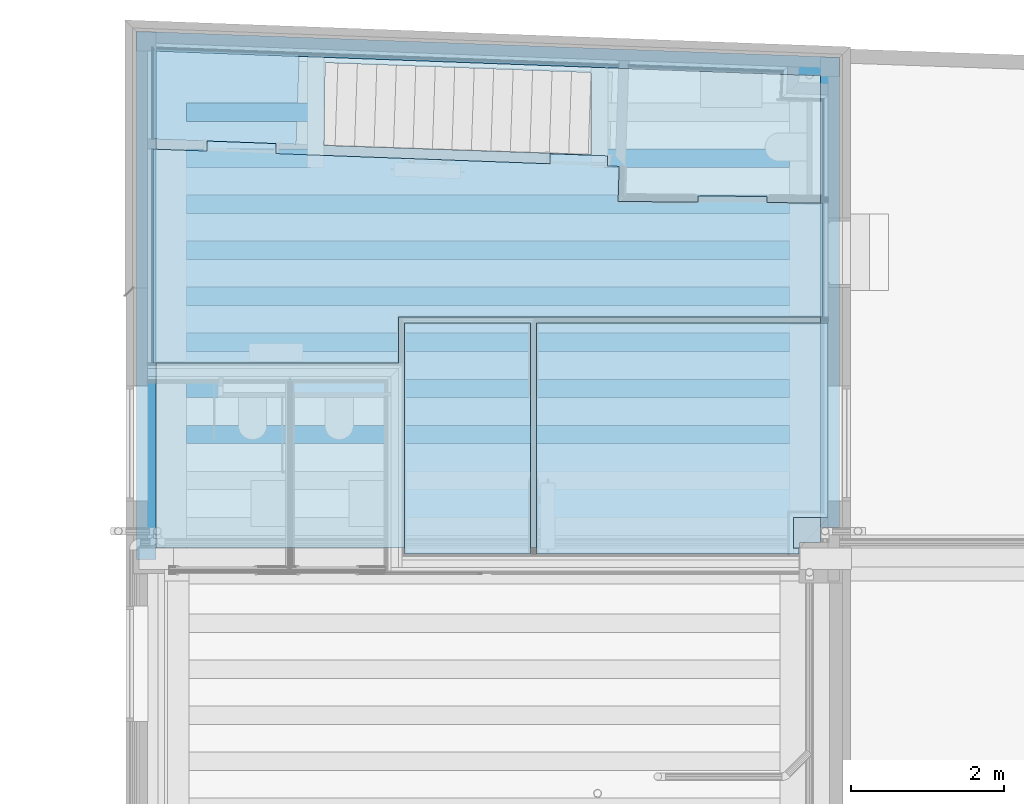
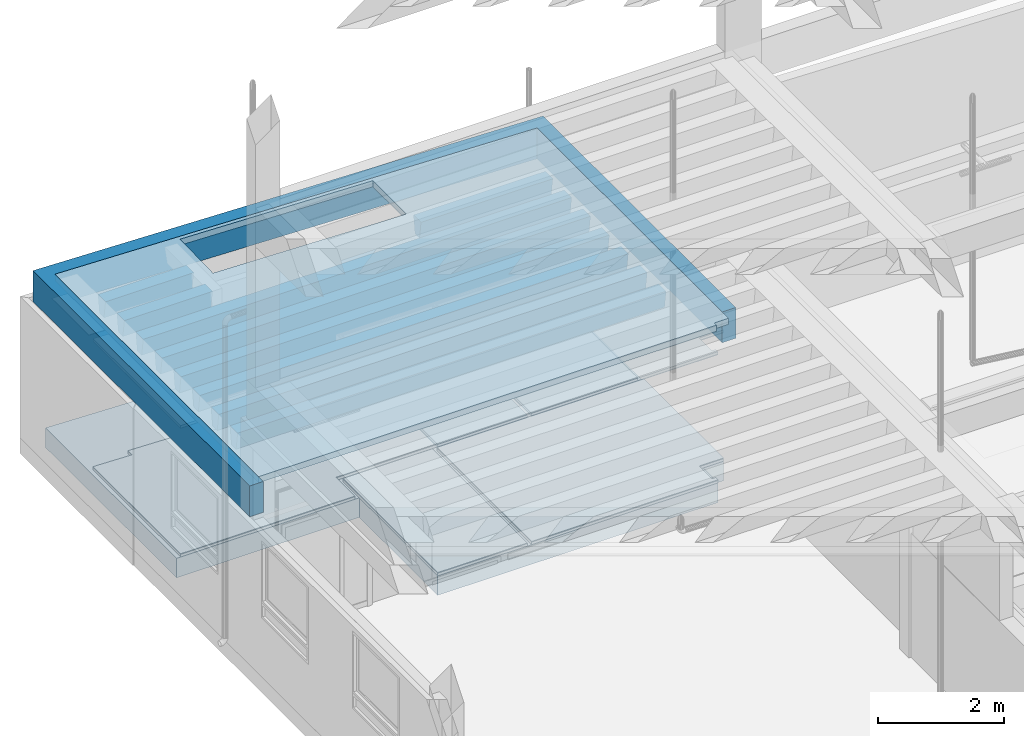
# One storey, part 20 of 106: 28 slabs.
"""IFC2X3 building model written with IfcOpenShell, lengths in metres."""

from ifc_helpers import new_model, entity, si_unit, converted_unit, derived_unit, money_unit, direction, frame, origin_with_axes, place, context, subcontext, project, spatial, faceted_brep, material, type_object, element, save


model = new_model("IFC2X3")

# Units and contexts
model_context = context("Model", 3, precision=1e-05, world=origin_with_axes(), true_north=direction((0.0, 1.0)))
body_context = subcontext(model_context, "Body", "Model", "MODEL_VIEW", scale=1.0)
ifc_project = project(units=[si_unit("LENGTHUNIT", "METRE"), si_unit("AREAUNIT", "SQUARE_METRE"), si_unit("VOLUMEUNIT", "CUBIC_METRE"), si_unit("ABSORBEDDOSEUNIT", "GRAY"), si_unit("AMOUNTOFSUBSTANCEUNIT", "MOLE"), si_unit("DOSEEQUIVALENTUNIT", "SIEVERT"), si_unit("ELECTRICCAPACITANCEUNIT", "FARAD"), si_unit("ELECTRICCHARGEUNIT", "COULOMB"), si_unit("ELECTRICCONDUCTANCEUNIT", "SIEMENS"), si_unit("ELECTRICCURRENTUNIT", "AMPERE"), si_unit("ELECTRICRESISTANCEUNIT", "OHM"), si_unit("ELECTRICVOLTAGEUNIT", "VOLT"), si_unit("ENERGYUNIT", "JOULE"), si_unit("FORCEUNIT", "NEWTON"), si_unit("FREQUENCYUNIT", "HERTZ"), si_unit("ILLUMINANCEUNIT", "LUX"), si_unit("INDUCTANCEUNIT", "HENRY"), si_unit("LUMINOUSFLUXUNIT", "LUMEN"), si_unit("LUMINOUSINTENSITYUNIT", "CANDELA"), si_unit("MAGNETICFLUXDENSITYUNIT", "TESLA"), si_unit("MAGNETICFLUXUNIT", "WEBER"), si_unit("MASSUNIT", "GRAM"), converted_unit("PLANEANGLEUNIT", "degree", entity("IfcReal", 0.0174532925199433), si_unit("PLANEANGLEUNIT", "RADIAN"), dimensions=[0, 0, 0, 0, 0, 0, 0]), si_unit("POWERUNIT", "WATT"), si_unit("PRESSUREUNIT", "PASCAL"), si_unit("RADIOACTIVITYUNIT", "BECQUEREL"), si_unit("SOLIDANGLEUNIT", "STERADIAN"), si_unit("THERMODYNAMICTEMPERATUREUNIT", "KELVIN"), si_unit("TIMEUNIT", "SECOND"), derived_unit("ACCELERATIONUNIT", [(si_unit("LENGTHUNIT", "METRE"), 1), (si_unit("TIMEUNIT", "SECOND"), -2)]), derived_unit("ANGULARVELOCITYUNIT", [(converted_unit("PLANEANGLEUNIT", "degree", entity("IfcReal", 0.0174532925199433), si_unit("PLANEANGLEUNIT", "RADIAN"), dimensions=[0, 0, 0, 0, 0, 0, 0]), 1), (si_unit("TIMEUNIT", "SECOND"), -1)]), derived_unit("CURVATUREUNIT", [(converted_unit("PLANEANGLEUNIT", "degree", entity("IfcReal", 0.0174532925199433), si_unit("PLANEANGLEUNIT", "RADIAN"), dimensions=[0, 0, 0, 0, 0, 0, 0]), 1), (si_unit("LENGTHUNIT", "METRE"), -1)]), derived_unit("DYNAMICVISCOSITYUNIT", [(si_unit("PRESSUREUNIT", "PASCAL"), 1), (si_unit("TIMEUNIT", "SECOND"), 1)]), derived_unit("HEATFLUXDENSITYUNIT", [(si_unit("POWERUNIT", "WATT"), 1), (si_unit("LENGTHUNIT", "METRE"), -2)]), derived_unit("HEATINGVALUEUNIT", [(si_unit("ENERGYUNIT", "JOULE"), 1), (si_unit("MASSUNIT", "GRAM"), -1)]), derived_unit("INTEGERCOUNTRATEUNIT", [(si_unit("TIMEUNIT", "SECOND"), -1)]), derived_unit("IONCONCENTRATIONUNIT", [(si_unit("MASSUNIT", "GRAM"), 1), (si_unit("VOLUMEUNIT", "CUBIC_METRE"), -1)]), derived_unit("ISOTHERMALMOISTURECAPACITYUNIT", [(si_unit("VOLUMEUNIT", "CUBIC_METRE"), 1), (si_unit("MASSUNIT", "GRAM"), -1)]), derived_unit("KINEMATICVISCOSITYUNIT", [(si_unit("AREAUNIT", "SQUARE_METRE"), 1), (si_unit("TIMEUNIT", "SECOND"), -1)]), derived_unit("LINEARFORCEUNIT", [(si_unit("FORCEUNIT", "NEWTON"), 1), (si_unit("LENGTHUNIT", "METRE"), -1)]), derived_unit("LINEARMOMENTUNIT", [(si_unit("FORCEUNIT", "NEWTON"), 1), (si_unit("LENGTHUNIT", "METRE"), -1)]), derived_unit("LINEARSTIFFNESSUNIT", [(si_unit("FORCEUNIT", "NEWTON"), 1), (si_unit("LENGTHUNIT", "METRE"), -1)]), derived_unit("LINEARVELOCITYUNIT", [(si_unit("LENGTHUNIT", "METRE"), 1), (si_unit("TIMEUNIT", "SECOND"), -1)]), derived_unit("LUMINOUSINTENSITYDISTRIBUTIONUNIT", [(si_unit("LUMINOUSINTENSITYUNIT", "CANDELA"), 1), (si_unit("LUMINOUSFLUXUNIT", "LUMEN"), -1)]), derived_unit("MASSDENSITYUNIT", [(si_unit("MASSUNIT", "GRAM"), 1), (si_unit("VOLUMEUNIT", "CUBIC_METRE"), -1)]), derived_unit("MASSFLOWRATEUNIT", [(si_unit("MASSUNIT", "GRAM"), 1), (si_unit("TIMEUNIT", "SECOND"), -1)]), derived_unit("MASSPERLENGTHUNIT", [(si_unit("MASSUNIT", "GRAM"), 1), (si_unit("LENGTHUNIT", "METRE"), -1)]), derived_unit("MODULUSOFELASTICITYUNIT", [(si_unit("FORCEUNIT", "NEWTON"), 1), (si_unit("AREAUNIT", "SQUARE_METRE"), -1)]), derived_unit("MODULUSOFLINEARSUBGRADEREACTIONUNIT", [(si_unit("FORCEUNIT", "NEWTON"), 1), (si_unit("LENGTHUNIT", "METRE"), -2)]), derived_unit("MODULUSOFROTATIONALSUBGRADEREACTIONUNIT", [(si_unit("FORCEUNIT", "NEWTON"), 1), (si_unit("LENGTHUNIT", "METRE"), 1)]), derived_unit("MODULUSOFSUBGRADEREACTIONUNIT", [(si_unit("FORCEUNIT", "NEWTON"), 1), (si_unit("VOLUMEUNIT", "CUBIC_METRE"), -1)]), derived_unit("MOISTUREDIFFUSIVITYUNIT", [(si_unit("VOLUMEUNIT", "CUBIC_METRE"), 1), (si_unit("TIMEUNIT", "SECOND"), -1)]), derived_unit("MOLECULARWEIGHTUNIT", [(si_unit("MASSUNIT", "GRAM"), 1), (si_unit("AMOUNTOFSUBSTANCEUNIT", "MOLE"), -1)]), derived_unit("PLANARFORCEUNIT", [(si_unit("FORCEUNIT", "NEWTON"), 1), (si_unit("LENGTHUNIT", "METRE"), -2)]), derived_unit("ROTATIONALFREQUENCYUNIT", [(si_unit("TIMEUNIT", "SECOND"), -1)]), derived_unit("ROTATIONALMASSUNIT", [(si_unit("MASSUNIT", "GRAM"), 1), (si_unit("LENGTHUNIT", "METRE"), 2)]), derived_unit("ROTATIONALSTIFFNESSUNIT", [(si_unit("FORCEUNIT", "NEWTON"), 1), (si_unit("LENGTHUNIT", "METRE"), 1), (converted_unit("PLANEANGLEUNIT", "degree", entity("IfcReal", 0.0174532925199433), si_unit("PLANEANGLEUNIT", "RADIAN"), dimensions=[0, 0, 0, 0, 0, 0, 0]), -1)]), derived_unit("SECTIONAREAINTEGRALUNIT", [(si_unit("LENGTHUNIT", "METRE"), 5)]), derived_unit("SECTIONMODULUSUNIT", [(si_unit("LENGTHUNIT", "METRE"), 3)]), derived_unit("SHEARMODULUSUNIT", [(si_unit("FORCEUNIT", "NEWTON"), 1), (si_unit("AREAUNIT", "SQUARE_METRE"), -1)]), derived_unit("SOUNDPOWERUNIT", [(si_unit("ENERGYUNIT", "JOULE"), 1), (si_unit("TIMEUNIT", "SECOND"), -1)]), derived_unit("SPECIFICHEATCAPACITYUNIT", [(si_unit("FORCEUNIT", "NEWTON"), 1), (si_unit("MASSUNIT", "GRAM"), -1), (si_unit("THERMODYNAMICTEMPERATUREUNIT", "KELVIN"), -1)]), derived_unit("TEMPERATUREGRADIENTUNIT", [(si_unit("THERMODYNAMICTEMPERATUREUNIT", "KELVIN"), 1), (si_unit("LENGTHUNIT", "METRE"), -1)]), derived_unit("THERMALADMITTANCEUNIT", [(si_unit("POWERUNIT", "WATT"), 1), (si_unit("AREAUNIT", "SQUARE_METRE"), -1), (si_unit("THERMODYNAMICTEMPERATUREUNIT", "KELVIN"), -1)]), derived_unit("THERMALCONDUCTANCEUNIT", [(si_unit("POWERUNIT", "WATT"), 1), (si_unit("LENGTHUNIT", "METRE"), -1), (si_unit("THERMODYNAMICTEMPERATUREUNIT", "KELVIN"), -1)]), derived_unit("THERMALEXPANSIONCOEFFICIENTUNIT", [(si_unit("THERMODYNAMICTEMPERATUREUNIT", "KELVIN"), -1)]), derived_unit("THERMALRESISTANCEUNIT", [(si_unit("AREAUNIT", "SQUARE_METRE"), 1), (si_unit("POWERUNIT", "WATT"), -1)]), derived_unit("THERMALTRANSMITTANCEUNIT", [(si_unit("POWERUNIT", "WATT"), 1), (si_unit("AREAUNIT", "SQUARE_METRE"), -1), (si_unit("THERMODYNAMICTEMPERATUREUNIT", "KELVIN"), -1)]), derived_unit("TORQUEUNIT", [(si_unit("FORCEUNIT", "NEWTON"), 1), (si_unit("LENGTHUNIT", "METRE"), 1)]), derived_unit("VAPORPERMEABILITYUNIT", [(si_unit("MASSUNIT", "GRAM"), 1), (si_unit("TIMEUNIT", "SECOND"), -1)]), derived_unit("VOLUMETRICFLOWRATEUNIT", [(si_unit("VOLUMEUNIT", "CUBIC_METRE"), 1), (si_unit("TIMEUNIT", "SECOND"), -1)]), derived_unit("WARPINGCONSTANTUNIT", [(si_unit("LENGTHUNIT", "METRE"), 6)]), derived_unit("WARPINGMOMENTUNIT", [(si_unit("FORCEUNIT", "NEWTON"), 1), (si_unit("LENGTHUNIT", "METRE"), 2)]), money_unit("GBP")], contexts=[model_context])

# Site, building, storey
site_placement = place(None, origin_with_axes())
site = spatial("IfcSite", under=ifc_project, at=site_placement, Name="Site", CompositionType="ELEMENT")
building_placement = place(site_placement, origin_with_axes())
building = spatial("IfcBuilding", under=site, at=building_placement, Name="Building01", CompositionType="ELEMENT")
storey_placement = place(building_placement, origin_with_axes())
storey = spatial("IfcBuildingStorey", under=building, at=storey_placement, Name="GF", CompositionType="ELEMENT", Elevation=0.0)

# Slabs
ifc_material_1 = material(Name="A_BSUK_Ceramic_WallTiles")
slab_type_1 = type_object("IfcSlabType", Name="A-FloorsSlabs A_BSUK_Slabs", PredefinedType="FLOOR")
placement = place(storey_placement, origin_with_axes())
element("IfcSlab", 1, at=placement, inside=storey, type_object=slab_type_1, material=ifc_material_1, Name="A-FloorsSlabs A_BSUK_Slabs", ObjectType="CompoundSlabLeaf", context=body_context, shape_type="Brep", body=[
    faceted_brep([(2.180525, 16.693646, 2.173), (2.180525, 16.693646, 2.198), (2.180525, 16.893647, 2.198), (2.180525, 16.893647, 2.173), (3.380525, 16.69365, 2.173), (3.380525, 16.69365, 2.198), (3.380525, 16.893646, 2.173), (3.380525, 16.893646, 2.198)], [[[0, 1, 2, 3]], [[4, 5, 1, 0]], [[6, 7, 5, 4]], [[3, 2, 7, 6]], [[1, 5, 7, 2]], [[3, 6, 4, 0]]]),
])
ifc_material_2 = material(Name="A_BSUK_Slabs")
element("IfcSlab", 2, at=placement, inside=storey, type_object=slab_type_1, material=ifc_material_2, Name="A-FloorsSlabs A_BSUK_Slabs", ObjectType="CompoundSlabLeaf", context=body_context, shape_type="Brep", body=[
    faceted_brep([(0.28086, 17.143647, -0.252), (0.28086, 17.143647, 0.128), (0.280897, 21.315124, 0.128), (0.280897, 21.315124, -0.252), (3.630525, 17.143618, -0.252), (3.630525, 17.143618, 0.128), (3.630503, 14.65, -0.252), (3.630503, 14.65, 0.128), (8.775264, 14.649955, -0.252), (8.775264, 14.649955, 0.128), (8.775269, 15.127892, -0.252), (8.775269, 15.127892, 0.128), (9.154265, 15.127888, -0.252), (9.154265, 15.127888, 0.128), (9.154317, 20.985941, -0.252), (9.154317, 20.985941, 0.128)], [[[0, 1, 2, 3]], [[4, 5, 1, 0]], [[6, 7, 5, 4]], [[8, 9, 7, 6]], [[10, 11, 9, 8]], [[12, 13, 11, 10]], [[14, 15, 13, 12]], [[3, 2, 15, 14]], [[1, 5, 7, 9, 11, 13, 15, 2]], [[3, 14, 12, 10, 8, 6, 4, 0]]]),
])
ifc_material_3 = material(Name="A_BSUK_Carpet-Pile")
element("IfcSlab", 3, at=placement, inside=storey, type_object=slab_type_1, material=ifc_material_3, Name="A-FloorsSlabs A_BSUK_Slabs", ObjectType="CompoundSlabLeaf", context=body_context, shape_type="Brep", body=[
    faceted_brep([(5.354256, 14.65, 0.178), (5.354256, 14.65, 0.19), (5.354256, 17.663571, 0.19), (5.354256, 17.663571, 0.178), (8.775265, 14.65, 0.178), (8.775265, 14.65, 0.19), (8.775265, 14.721892, 0.178), (8.775265, 14.721892, 0.19), (8.705291, 14.721892, 0.178), (8.705291, 14.721892, 0.19), (8.705291, 15.127892, 0.178), (8.705291, 15.127892, 0.19), (9.154265, 15.127892, 0.178), (9.154265, 15.127892, 0.19), (9.154265, 17.663571, 0.178), (9.154265, 17.663571, 0.19)], [[[0, 1, 2, 3]], [[4, 5, 1, 0]], [[6, 7, 5, 4]], [[8, 9, 7, 6]], [[10, 11, 9, 8]], [[12, 13, 11, 10]], [[14, 15, 13, 12]], [[3, 2, 15, 14]], [[1, 5, 7, 9, 11, 13, 15, 2]], [[3, 14, 12, 10, 8, 6, 4, 0]]]),
])
ifc_material_4 = material(Name="A_BSUK_Parquet_Floor")
element("IfcSlab", 4, at=placement, inside=storey, type_object=slab_type_1, material=ifc_material_4, Name="A-FloorsSlabs A_BSUK_Slabs", ObjectType="CompoundSlabLeaf", context=body_context, shape_type="Brep", body=[
    faceted_brep([(3.630525, 17.663571, 0.178), (3.630525, 17.663571, 0.19), (5.274256, 17.663571, 0.19), (5.274256, 17.663571, 0.178), (3.630525, 14.65, 0.178), (3.630525, 14.65, 0.19), (5.274256, 14.65, 0.178), (5.274256, 14.65, 0.19)], [[[0, 1, 2, 3]], [[4, 5, 1, 0]], [[6, 7, 5, 4]], [[3, 2, 7, 6]], [[1, 5, 7, 2]], [[3, 6, 4, 0]]]),
])
ifc_material_5 = material(Name="A_BSUK_CeilingSoffitFinishes_Suspended")
element("IfcSlab", 5, at=placement, inside=storey, type_object=slab_type_1, material=ifc_material_5, Name="A-FloorsSlabs A_BSUK_Slabs", ObjectType="CompoundSlabLeaf", context=body_context, shape_type="Brep", body=[
    faceted_brep([(0.352897, 20.061719, 2.648), (0.352897, 20.061719, 2.663), (0.352897, 21.240404, 2.663), (0.352897, 21.240404, 2.648), (2.218549, 19.992487, 2.648), (2.218549, 19.992487, 2.663), (2.255765, 21.074618, 2.648), (2.255765, 21.074618, 2.663), (2.259035, 21.169698, 2.648), (2.259035, 21.169698, 2.663)], [[[0, 1, 2, 3]], [[4, 5, 1, 0]], [[6, 7, 5, 4]], [[8, 9, 7, 6]], [[3, 2, 9, 8]], [[1, 5, 7, 9, 2]], [[3, 8, 6, 4, 0]]]),
])
element("IfcSlab", 6, at=placement, inside=storey, type_object=slab_type_1, material=ifc_material_4, Name="A-FloorsSlabs A_BSUK_Slabs", ObjectType="CompoundSlabLeaf", context=body_context, shape_type="Brep", body=[
    faceted_brep([(0.35286, 19.930631, 0.178), (0.35286, 19.930631, 0.19), (1.053595, 19.904707, 0.19), (1.053595, 19.904707, 0.178), (0.35286, 17.143647, 0.178), (0.35286, 17.143647, 0.19), (3.550525, 17.143647, 0.178), (3.550525, 17.143647, 0.19), (3.550525, 17.743571, 0.178), (3.550525, 17.743571, 0.19), (9.082265, 17.743571, 0.178), (9.082265, 17.743571, 0.19), (9.082265, 19.227572, 0.178), (9.082265, 19.227572, 0.19), (8.356522, 19.232925, 0.178), (8.356522, 19.232925, 0.19), (8.357258, 19.312922, 0.178), (8.357258, 19.312922, 0.19), (7.457276, 19.318961, 0.178), (7.457276, 19.318961, 0.19), (7.456561, 19.241312, 0.178), (7.456561, 19.241312, 0.19), (6.414819, 19.245955, 0.178), (6.414819, 19.245955, 0.19), (6.430303, 19.7058, 0.178), (6.430303, 19.7058, 0.19), (6.275395, 19.71153, 0.178), (6.275395, 19.71153, 0.19), (6.280238, 19.842441, 0.178), (6.280238, 19.842441, 0.19), (5.530751, 19.870167, 0.178), (5.530751, 19.870167, 0.19), (5.525908, 19.739257, 0.178), (5.525908, 19.739257, 0.19), (1.952979, 19.871435, 0.178), (1.952979, 19.871435, 0.19), (1.957822, 20.002346, 0.178), (1.957822, 20.002346, 0.19), (1.058438, 20.035618, 0.178), (1.058438, 20.035618, 0.19)], [[[0, 1, 2, 3]], [[4, 5, 1, 0]], [[6, 7, 5, 4]], [[8, 9, 7, 6]], [[10, 11, 9, 8]], [[12, 13, 11, 10]], [[14, 15, 13, 12]], [[16, 17, 15, 14]], [[18, 19, 17, 16]], [[20, 21, 19, 18]], [[22, 23, 21, 20]], [[24, 25, 23, 22]], [[26, 27, 25, 24]], [[28, 29, 27, 26]], [[30, 31, 29, 28]], [[32, 33, 31, 30]], [[34, 35, 33, 32]], [[36, 37, 35, 34]], [[38, 39, 37, 36]], [[3, 2, 39, 38]], [[1, 5, 7, 9, 11, 13, 15, 17, 19, 21, 23, 25, 27, 29, 31, 33, 35, 37, 39, 2]], [[3, 38, 36, 34, 32, 30, 28, 26, 24, 22, 20, 18, 16, 14, 12, 10, 8, 6, 4, 0]]]),
])
element("IfcSlab", 7, at=placement, inside=storey, type_object=slab_type_1, material=ifc_material_5, Name="A-FloorsSlabs A_BSUK_Slabs", ObjectType="CompoundSlabLeaf", context=body_context, shape_type="Brep", body=[
    faceted_brep([(5.354256, 14.65, 2.6125), (5.354256, 14.65, 2.625), (5.354256, 17.663571, 2.625), (5.354256, 17.663571, 2.6125), (8.775265, 14.65, 2.6125), (8.775265, 14.65, 2.625), (8.775265, 14.721892, 2.6125), (8.775265, 14.721892, 2.625), (8.705291, 14.721892, 2.6125), (8.705291, 14.721892, 2.625), (8.705291, 15.127892, 2.6125), (8.705291, 15.127892, 2.625), (9.154265, 15.127892, 2.6125), (9.154265, 15.127892, 2.625), (9.154265, 17.663571, 2.6125), (9.154265, 17.663571, 2.625)], [[[0, 1, 2, 3]], [[4, 5, 1, 0]], [[6, 7, 5, 4]], [[8, 9, 7, 6]], [[10, 11, 9, 8]], [[12, 13, 11, 10]], [[14, 15, 13, 12]], [[3, 2, 15, 14]], [[1, 5, 7, 9, 11, 13, 15, 2]], [[3, 14, 12, 10, 8, 6, 4, 0]]]),
])
element("IfcSlab", 8, at=placement, inside=storey, type_object=slab_type_1, material=ifc_material_5, Name="A-FloorsSlabs A_BSUK_Slabs", ObjectType="CompoundSlabLeaf", context=body_context, shape_type="Brep", body=[
    faceted_brep([(3.630525, 17.663571, 2.6125), (3.630525, 17.663571, 2.625), (5.274256, 17.663571, 2.625), (5.274256, 17.663571, 2.6125), (3.630525, 14.65, 2.6125), (3.630525, 14.65, 2.625), (5.274256, 14.65, 2.6125), (5.274256, 14.65, 2.625)], [[[0, 1, 2, 3]], [[4, 5, 1, 0]], [[6, 7, 5, 4]], [[3, 2, 7, 6]], [[1, 5, 7, 2]], [[3, 6, 4, 0]]]),
])
element("IfcSlab", 9, at=placement, inside=storey, type_object=slab_type_1, material=ifc_material_5, Name="A-FloorsSlabs A_BSUK_Slabs", ObjectType="CompoundSlabLeaf", context=body_context, shape_type="Brep", body=[
    faceted_brep([(0.35286, 19.930631, 2.6125), (0.35286, 19.930631, 2.625), (1.053595, 19.904707, 2.625), (1.053595, 19.904707, 2.6125), (0.35286, 17.143647, 2.6125), (0.35286, 17.143647, 2.625), (3.550525, 17.143647, 2.6125), (3.550525, 17.143647, 2.625), (3.550525, 17.743571, 2.6125), (3.550525, 17.743571, 2.625), (9.082265, 17.743571, 2.6125), (9.082265, 17.743571, 2.625), (9.082265, 19.227572, 2.6125), (9.082265, 19.227572, 2.625), (8.356522, 19.232925, 2.6125), (8.356522, 19.232925, 2.625), (8.357258, 19.312922, 2.6125), (8.357258, 19.312922, 2.625), (7.457276, 19.318961, 2.6125), (7.457276, 19.318961, 2.625), (7.456561, 19.241312, 2.6125), (7.456561, 19.241312, 2.625), (6.414819, 19.245955, 2.6125), (6.414819, 19.245955, 2.625), (6.430303, 19.7058, 2.6125), (6.430303, 19.7058, 2.625), (6.275395, 19.71153, 2.6125), (6.275395, 19.71153, 2.625), (6.280238, 19.842441, 2.6125), (6.280238, 19.842441, 2.625), (5.530751, 19.870167, 2.6125), (5.530751, 19.870167, 2.625), (5.525908, 19.739257, 2.6125), (5.525908, 19.739257, 2.625), (1.952979, 19.871435, 2.6125), (1.952979, 19.871435, 2.625), (1.957822, 20.002346, 2.6125), (1.957822, 20.002346, 2.625), (1.058438, 20.035618, 2.6125), (1.058438, 20.035618, 2.625)], [[[0, 1, 2, 3]], [[4, 5, 1, 0]], [[6, 7, 5, 4]], [[8, 9, 7, 6]], [[10, 11, 9, 8]], [[12, 13, 11, 10]], [[14, 15, 13, 12]], [[16, 17, 15, 14]], [[18, 19, 17, 16]], [[20, 21, 19, 18]], [[22, 23, 21, 20]], [[24, 25, 23, 22]], [[26, 27, 25, 24]], [[28, 29, 27, 26]], [[30, 31, 29, 28]], [[32, 33, 31, 30]], [[34, 35, 33, 32]], [[36, 37, 35, 34]], [[38, 39, 37, 36]], [[3, 2, 39, 38]], [[1, 5, 7, 9, 11, 13, 15, 17, 19, 21, 23, 25, 27, 29, 31, 33, 35, 37, 39, 2]], [[3, 38, 36, 34, 32, 30, 28, 26, 24, 22, 20, 18, 16, 14, 12, 10, 8, 6, 4, 0]]]),
])
for number, where, z_axis, x_axis, name in (
    (10, (0.845327, 16.090006, 3.015), (0.0, 0.0, 1.0), (1.0, 0.0, 0.0), "A-FloorsSlabs A_BSUK_Slabs"),
    (11, (0.845327, 16.690006, 3.015), (0.0, 0.0, 1.0), (1.0, 0.0, 0.0), "A-FloorsSlabs A_BSUK_Slabs"),
    (12, (0.845327, 17.890006, 3.015), (0.0, 0.0, 1.0), (1.0, 0.0, 0.0), "A-FloorsSlabs A_BSUK_Slabs"),
    (13, (0.845327, 18.490006, 3.015), (0.0, 0.0, 1.0), (1.0, 0.0, 0.0), "A-FloorsSlabs A_BSUK_Slabs"),
    (14, (0.845327, 19.090006, 3.015), (0.0, 0.0, 1.0), (1.0, 0.0, 0.0), "A-FloorsSlabs A_BSUK_Slabs"),
):
    element("IfcSlab", number, at=place(storey_placement, frame(where, z_axis=z_axis, x_axis=x_axis)), inside=storey, type_object=slab_type_1, material=ifc_material_2, Name=name, ObjectType="A-FloorsSlabs A_BSUK_Slabs", context=body_context, shape_type="Brep", body=[
        faceted_brep([(-0.054648, 0.048571, -0.34), (7.807711, 0.048571, -0.34), (7.807711, 0.0, 0.0), (-0.054648, 0.0, 0.0), (-0.054648, 0.191429, -0.34), (7.807711, 0.191429, -0.34), (-0.054648, 0.24, 0.0), (7.807711, 0.24, 0.0)], [[[0, 1, 2, 3]], [[4, 5, 1, 0]], [[6, 7, 5, 4]], [[3, 2, 7, 6]], [[1, 5, 7, 2]], [[3, 6, 4, 0]]]),
    ])
slab_10_placement = place(storey_placement, frame((1.217261, 19.690006, 3.015), z_axis=(0.0, 0.0, 1.0), x_axis=(1.0, 0.0, 0.0)))
element("IfcSlab", 15, at=slab_10_placement, inside=storey, type_object=slab_type_1, material=ifc_material_2, Name="A-FloorsSlabs A_BSUK_Slabs", ObjectType="A-FloorsSlabs A_BSUK_Slabs", context=body_context, shape_type="Brep", body=[
    faceted_brep([(5.016598, 0.048571, -0.34), (7.435777, 0.048571, -0.34), (7.435777, 0.0, 0.0), (5.016598, 0.0, 0.0), (5.016598, 0.191429, -0.34), (7.435777, 0.191429, -0.34), (5.016598, 0.24, 0.0), (7.435777, 0.24, 0.0)], [[[0, 1, 2, 3]], [[4, 5, 1, 0]], [[6, 7, 5, 4]], [[3, 2, 7, 6]], [[1, 5, 7, 2]], [[3, 6, 4, 0]]]),
])
slab_11_placement = place(storey_placement, frame((-4.445914, 19.690006, 3.015), z_axis=(0.0, 0.0, 1.0), x_axis=(1.0, 0.0, 0.0)))
element("IfcSlab", 16, at=slab_11_placement, inside=storey, type_object=slab_type_1, material=ifc_material_2, Name="A-FloorsSlabs A_BSUK_Slabs", ObjectType="A-FloorsSlabs A_BSUK_Slabs", context=body_context, shape_type="Brep", body=[
    faceted_brep([(5.236593, 0.048571, -0.34), (6.85867, 0.048571, -0.34), (6.85867, 0.0, 0.0), (5.236593, 0.0, 0.0), (5.236593, 0.191429, -0.34), (6.85867, 0.191429, -0.34), (5.236593, 0.24, 0.0), (6.85867, 0.24, 0.0)], [[[0, 1, 2, 3]], [[4, 5, 1, 0]], [[6, 7, 5, 4]], [[3, 2, 7, 6]], [[1, 5, 7, 2]], [[3, 6, 4, 0]]]),
])
slab_12_placement = place(storey_placement, frame((0.845327, 17.290006, 3.015), z_axis=(0.0, 0.0, 1.0), x_axis=(1.0, 0.0, 0.0)))
element("IfcSlab", 17, at=slab_12_placement, inside=storey, type_object=slab_type_1, material=ifc_material_2, Name="A-FloorsSlabs A_BSUK_Slabs", ObjectType="A-FloorsSlabs A_BSUK_Slabs", context=body_context, shape_type="Brep", body=[
    faceted_brep([(-0.054648, 0.048571, -0.34), (7.807711, 0.048571, -0.34), (7.807711, 0.0, 0.0), (-0.054648, 0.0, 0.0), (-0.054648, 0.191429, -0.34), (7.807711, 0.191429, -0.34), (-0.054648, 0.24, 0.0), (7.807711, 0.24, 0.0)], [[[0, 1, 2, 3]], [[4, 5, 1, 0]], [[6, 7, 5, 4]], [[3, 2, 7, 6]], [[1, 5, 7, 2]], [[3, 6, 4, 0]]]),
])
slab_13_placement = place(storey_placement, frame((-4.445914, 20.290006, 3.015), z_axis=(0.0, 0.0, 1.0), x_axis=(1.0, 0.0, 0.0)))
element("IfcSlab", 18, at=slab_13_placement, inside=storey, type_object=slab_type_1, material=ifc_material_2, Name="A-FloorsSlabs A_BSUK_Slabs", ObjectType="A-FloorsSlabs A_BSUK_Slabs", context=body_context, shape_type="Brep", body=[
    faceted_brep([(5.236593, 0.048571, -0.34), (6.85867, 0.048571, -0.34), (6.85867, 0.0, 0.0), (5.236593, 0.0, 0.0), (5.236593, 0.191429, -0.34), (6.85867, 0.191429, -0.34), (5.236593, 0.24, 0.0), (6.85867, 0.24, 0.0)], [[[0, 1, 2, 3]], [[4, 5, 1, 0]], [[6, 7, 5, 4]], [[3, 2, 7, 6]], [[1, 5, 7, 2]], [[3, 6, 4, 0]]]),
])
element("IfcSlab", 19, at=placement, inside=storey, type_object=slab_type_1, material=ifc_material_2, Name="A-FloorsSlabs A_BSUK_Slabs", ObjectType="CompoundSlabLeaf", context=body_context, shape_type="Brep", body=[
    faceted_brep([(8.79, 14.73, 3.135), (8.79, 14.800435, 3.135), (9.053038, 14.8, 3.135), (9.053038, 20.886536, 3.135), (0.390679, 21.207883, 3.135), (0.390679, 14.73, 3.135), (0.6, 14.73, 3.135), (0.6, 14.73001, 3.135), (2.584185, 19.979174, 3.135), (2.600888, 21.053624, 3.135), (6.062512, 20.925208, 3.135), (6.06243, 19.859391, 3.135), (0.6, 14.73001, 3.015), (0.6, 14.73, 3.015), (0.390679, 14.73, 3.015), (0.390679, 21.207883, 3.015), (9.053038, 20.886536, 3.015), (9.053038, 14.8, 3.015), (8.79, 14.800435, 3.015), (8.79, 14.73, 3.015), (2.584185, 19.979174, 3.015), (6.06243, 19.859391, 3.015), (6.062512, 20.925208, 3.015), (2.600888, 21.053624, 3.015)], [[[0, 1, 2, 3, 4, 5, 6, 7], [8, 9, 10, 11]], [[12, 13, 14, 15, 16, 17, 18, 19], [20, 21, 22, 23]], [[19, 0, 7, 12]], [[18, 1, 0, 19]], [[17, 2, 1, 18]], [[16, 3, 2, 17]], [[15, 4, 3, 16]], [[14, 5, 4, 15]], [[13, 6, 5, 14]], [[12, 7, 6, 13]], [[20, 23, 9, 8]], [[21, 20, 8, 11]], [[22, 21, 11, 10]], [[23, 22, 10, 9]]]),
])
element("IfcSlab", 20, at=placement, inside=storey, type_object=slab_type_1, material=ifc_material_2, Name="A-FloorsSlabs A_BSUK_Slabs", ObjectType="CompoundSlabLeaf", context=body_context, shape_type="Brep", body=[
    faceted_brep([(0.390679, 14.580006, 2.535), (0.390679, 14.580006, 3.135), (0.140679, 14.580006, 3.135), (0.140679, 14.580006, 2.535), (0.390679, 21.207883, 2.535), (0.390679, 21.207883, 3.135), (9.053038, 20.886536, 2.535), (9.053038, 20.886536, 3.135), (9.053038, 14.999999, 2.535), (9.053038, 14.999999, 3.135), (9.303038, 14.999999, 2.535), (9.303038, 14.999999, 3.135), (9.303038, 21.127455, 2.535), (9.303038, 21.127455, 3.135), (0.140679, 21.46733, 2.535), (0.140679, 21.46733, 3.135)], [[[0, 1, 2, 3]], [[4, 5, 1, 0]], [[6, 7, 5, 4]], [[8, 9, 7, 6]], [[10, 11, 9, 8]], [[12, 13, 11, 10]], [[14, 15, 13, 12]], [[3, 2, 15, 14]], [[1, 5, 7, 9, 11, 13, 15, 2]], [[3, 14, 12, 10, 8, 6, 4, 0]]]),
])
element("IfcSlab", 21, at=placement, inside=storey, type_object=slab_type_1, material=ifc_material_2, Name="A-FloorsSlabs A_BSUK_Slabs", ObjectType="CompoundSlabLeaf", context=body_context, shape_type="Brep", body=[
    faceted_brep([(8.79, 14.73, 3.135), (8.79, 14.800435, 3.135), (9.053038, 14.8, 3.135), (9.053038, 20.886536, 3.135), (0.390679, 21.207883, 3.135), (0.390679, 14.73, 3.135), (0.6, 14.73, 3.135), (0.6, 14.73001, 3.135), (2.584185, 19.979174, 3.135), (2.600888, 21.053624, 3.135), (6.062512, 20.925208, 3.135), (6.06243, 19.859391, 3.135), (0.6, 14.73001, 3.015), (0.6, 14.73, 3.015), (0.390679, 14.73, 3.015), (0.390679, 21.207883, 3.015), (9.053038, 20.886536, 3.015), (9.053038, 14.8, 3.015), (8.79, 14.800435, 3.015), (8.79, 14.73, 3.015), (2.584185, 19.979174, 3.015), (6.06243, 19.859391, 3.015), (6.062512, 20.925208, 3.015), (2.600888, 21.053624, 3.015)], [[[0, 1, 2, 3, 4, 5, 6, 7], [8, 9, 10, 11]], [[12, 13, 14, 15, 16, 17, 18, 19], [20, 21, 22, 23]], [[19, 0, 7, 12]], [[18, 1, 0, 19]], [[17, 2, 1, 18]], [[16, 3, 2, 17]], [[15, 4, 3, 16]], [[14, 5, 4, 15]], [[13, 6, 5, 14]], [[12, 7, 6, 13]], [[20, 23, 9, 8]], [[21, 20, 8, 11]], [[22, 21, 11, 10]], [[23, 22, 10, 9]]]),
])
element("IfcSlab", 22, at=placement, inside=storey, type_object=slab_type_1, material=ifc_material_2, Name="A-FloorsSlabs A_BSUK_Slabs", ObjectType="CompoundSlabLeaf", context=body_context, shape_type="Brep", body=[
    faceted_brep([(0.390679, 14.580006, 2.535), (0.390679, 14.580006, 3.135), (0.140679, 14.580006, 3.135), (0.140679, 14.580006, 2.535), (0.390679, 21.207883, 2.535), (0.390679, 21.207883, 3.135), (9.053038, 20.886536, 2.535), (9.053038, 20.886536, 3.135), (9.053038, 14.999999, 2.535), (9.053038, 14.999999, 3.135), (9.303038, 14.999999, 2.535), (9.303038, 14.999999, 3.135), (9.303038, 21.127455, 2.535), (9.303038, 21.127455, 3.135), (0.140679, 21.46733, 2.535), (0.140679, 21.46733, 3.135)], [[[0, 1, 2, 3]], [[4, 5, 1, 0]], [[6, 7, 5, 4]], [[8, 9, 7, 6]], [[10, 11, 9, 8]], [[12, 13, 11, 10]], [[14, 15, 13, 12]], [[3, 2, 15, 14]], [[1, 5, 7, 9, 11, 13, 15, 2]], [[3, 14, 12, 10, 8, 6, 4, 0]]]),
])
ifc_material_6 = material(Name="A_BSUK_ExpandedPolystyreneBoards")
slab_type_2 = type_object("IfcSlabType", Name="A-FloorsSlabs A_BSUK_ExpandedPolystyreneBoards", PredefinedType="FLOOR")
element("IfcSlab", 23, at=placement, inside=storey, type_object=slab_type_2, material=ifc_material_6, Name="A-FloorsSlabs A_BSUK_ExpandedPolystyreneBoards", ObjectType="CompoundSlabLeaf", context=body_context, shape_type="Brep", body=[
    faceted_brep([(5.354256, 14.65, 0.128), (5.354256, 14.65, 0.178), (5.354256, 17.663571, 0.178), (5.354256, 17.663571, 0.128), (8.775265, 14.65, 0.128), (8.775265, 14.65, 0.178), (8.775265, 14.721892, 0.128), (8.775265, 14.721892, 0.178), (8.705291, 14.721892, 0.128), (8.705291, 14.721892, 0.178), (8.705291, 15.127892, 0.128), (8.705291, 15.127892, 0.178), (9.154265, 15.127892, 0.128), (9.154265, 15.127892, 0.178), (9.154265, 17.663571, 0.128), (9.154265, 17.663571, 0.178)], [[[0, 1, 2, 3]], [[4, 5, 1, 0]], [[6, 7, 5, 4]], [[8, 9, 7, 6]], [[10, 11, 9, 8]], [[12, 13, 11, 10]], [[14, 15, 13, 12]], [[3, 2, 15, 14]], [[1, 5, 7, 9, 11, 13, 15, 2]], [[3, 14, 12, 10, 8, 6, 4, 0]]]),
])
element("IfcSlab", 24, at=placement, inside=storey, type_object=slab_type_2, material=ifc_material_6, Name="A-FloorsSlabs A_BSUK_ExpandedPolystyreneBoards", ObjectType="CompoundSlabLeaf", context=body_context, shape_type="Brep", body=[
    faceted_brep([(3.630525, 17.663571, 0.128), (3.630525, 17.663571, 0.178), (5.274256, 17.663571, 0.178), (5.274256, 17.663571, 0.128), (3.630525, 14.65, 0.128), (3.630525, 14.65, 0.178), (5.274256, 14.65, 0.128), (5.274256, 14.65, 0.178)], [[[0, 1, 2, 3]], [[4, 5, 1, 0]], [[6, 7, 5, 4]], [[3, 2, 7, 6]], [[1, 5, 7, 2]], [[3, 6, 4, 0]]]),
])
element("IfcSlab", 25, at=placement, inside=storey, type_object=slab_type_2, material=ifc_material_6, Name="A-FloorsSlabs A_BSUK_ExpandedPolystyreneBoards", ObjectType="CompoundSlabLeaf", context=body_context, shape_type="Brep", body=[
    faceted_brep([(0.35286, 19.930631, 0.128), (0.35286, 19.930631, 0.178), (1.053595, 19.904707, 0.178), (1.053595, 19.904707, 0.128), (0.35286, 17.143647, 0.128), (0.35286, 17.143647, 0.178), (3.550525, 17.143647, 0.128), (3.550525, 17.143647, 0.178), (3.550525, 17.743571, 0.128), (3.550525, 17.743571, 0.178), (9.082265, 17.743571, 0.128), (9.082265, 17.743571, 0.178), (9.082265, 19.227572, 0.128), (9.082265, 19.227572, 0.178), (8.356522, 19.232925, 0.128), (8.356522, 19.232925, 0.178), (8.357258, 19.312922, 0.128), (8.357258, 19.312922, 0.178), (7.457276, 19.318961, 0.128), (7.457276, 19.318961, 0.178), (7.456561, 19.241312, 0.128), (7.456561, 19.241312, 0.178), (6.414819, 19.245955, 0.128), (6.414819, 19.245955, 0.178), (6.430303, 19.7058, 0.128), (6.430303, 19.7058, 0.178), (6.275395, 19.71153, 0.128), (6.275395, 19.71153, 0.178), (6.280238, 19.842441, 0.128), (6.280238, 19.842441, 0.178), (5.530751, 19.870167, 0.128), (5.530751, 19.870167, 0.178), (5.525908, 19.739257, 0.128), (5.525908, 19.739257, 0.178), (1.952979, 19.871435, 0.128), (1.952979, 19.871435, 0.178), (1.957822, 20.002346, 0.128), (1.957822, 20.002346, 0.178), (1.058438, 20.035618, 0.128), (1.058438, 20.035618, 0.178)], [[[0, 1, 2, 3]], [[4, 5, 1, 0]], [[6, 7, 5, 4]], [[8, 9, 7, 6]], [[10, 11, 9, 8]], [[12, 13, 11, 10]], [[14, 15, 13, 12]], [[16, 17, 15, 14]], [[18, 19, 17, 16]], [[20, 21, 19, 18]], [[22, 23, 21, 20]], [[24, 25, 23, 22]], [[26, 27, 25, 24]], [[28, 29, 27, 26]], [[30, 31, 29, 28]], [[32, 33, 31, 30]], [[34, 35, 33, 32]], [[36, 37, 35, 34]], [[38, 39, 37, 36]], [[3, 2, 39, 38]], [[1, 5, 7, 9, 11, 13, 15, 17, 19, 21, 23, 25, 27, 29, 31, 33, 35, 37, 39, 2]], [[3, 38, 36, 34, 32, 30, 28, 26, 24, 22, 20, 18, 16, 14, 12, 10, 8, 6, 4, 0]]]),
])
element("IfcSlab", 26, at=placement, inside=storey, type_object=slab_type_2, material=ifc_material_6, Name="A-FloorsSlabs A_BSUK_ExpandedPolystyreneBoards", ObjectType="CompoundSlabLeaf", context=body_context, shape_type="Brep", body=[
    faceted_brep([(5.354256, 14.65, 2.625), (5.354256, 14.65, 2.675), (5.354256, 17.663571, 2.675), (5.354256, 17.663571, 2.625), (8.775265, 14.65, 2.625), (8.775265, 14.65, 2.675), (8.775265, 14.721892, 2.625), (8.775265, 14.721892, 2.675), (8.705291, 14.721892, 2.625), (8.705291, 14.721892, 2.675), (8.705291, 15.127892, 2.625), (8.705291, 15.127892, 2.675), (9.154265, 15.127892, 2.625), (9.154265, 15.127892, 2.675), (9.154265, 17.663571, 2.625), (9.154265, 17.663571, 2.675)], [[[0, 1, 2, 3]], [[4, 5, 1, 0]], [[6, 7, 5, 4]], [[8, 9, 7, 6]], [[10, 11, 9, 8]], [[12, 13, 11, 10]], [[14, 15, 13, 12]], [[3, 2, 15, 14]], [[1, 5, 7, 9, 11, 13, 15, 2]], [[3, 14, 12, 10, 8, 6, 4, 0]]]),
])
element("IfcSlab", 27, at=placement, inside=storey, type_object=slab_type_2, material=ifc_material_6, Name="A-FloorsSlabs A_BSUK_ExpandedPolystyreneBoards", ObjectType="CompoundSlabLeaf", context=body_context, shape_type="Brep", body=[
    faceted_brep([(3.630525, 17.663571, 2.625), (3.630525, 17.663571, 2.675), (5.274256, 17.663571, 2.675), (5.274256, 17.663571, 2.625), (3.630525, 14.65, 2.625), (3.630525, 14.65, 2.675), (5.274256, 14.65, 2.625), (5.274256, 14.65, 2.675)], [[[0, 1, 2, 3]], [[4, 5, 1, 0]], [[6, 7, 5, 4]], [[3, 2, 7, 6]], [[1, 5, 7, 2]], [[3, 6, 4, 0]]]),
])
element("IfcSlab", 28, at=placement, inside=storey, type_object=slab_type_2, material=ifc_material_6, Name="A-FloorsSlabs A_BSUK_ExpandedPolystyreneBoards", ObjectType="CompoundSlabLeaf", context=body_context, shape_type="Brep", body=[
    faceted_brep([(0.35286, 19.930631, 2.625), (0.35286, 19.930631, 2.675), (1.053595, 19.904707, 2.675), (1.053595, 19.904707, 2.625), (0.35286, 17.143647, 2.625), (0.35286, 17.143647, 2.675), (3.550525, 17.143647, 2.625), (3.550525, 17.143647, 2.675), (3.550525, 17.743571, 2.625), (3.550525, 17.743571, 2.675), (9.082265, 17.743571, 2.625), (9.082265, 17.743571, 2.675), (9.082265, 19.227572, 2.625), (9.082265, 19.227572, 2.675), (8.356522, 19.232925, 2.625), (8.356522, 19.232925, 2.675), (8.357258, 19.312922, 2.625), (8.357258, 19.312922, 2.675), (7.457276, 19.318961, 2.625), (7.457276, 19.318961, 2.675), (7.456561, 19.241312, 2.625), (7.456561, 19.241312, 2.675), (6.414819, 19.245955, 2.625), (6.414819, 19.245955, 2.675), (6.430303, 19.7058, 2.625), (6.430303, 19.7058, 2.675), (6.275395, 19.71153, 2.625), (6.275395, 19.71153, 2.675), (6.280238, 19.842441, 2.625), (6.280238, 19.842441, 2.675), (5.530751, 19.870167, 2.625), (5.530751, 19.870167, 2.675), (5.525908, 19.739257, 2.625), (5.525908, 19.739257, 2.675), (1.952979, 19.871435, 2.625), (1.952979, 19.871435, 2.675), (1.957822, 20.002346, 2.625), (1.957822, 20.002346, 2.675), (1.058438, 20.035618, 2.625), (1.058438, 20.035618, 2.675)], [[[0, 1, 2, 3]], [[4, 5, 1, 0]], [[6, 7, 5, 4]], [[8, 9, 7, 6]], [[10, 11, 9, 8]], [[12, 13, 11, 10]], [[14, 15, 13, 12]], [[16, 17, 15, 14]], [[18, 19, 17, 16]], [[20, 21, 19, 18]], [[22, 23, 21, 20]], [[24, 25, 23, 22]], [[26, 27, 25, 24]], [[28, 29, 27, 26]], [[30, 31, 29, 28]], [[32, 33, 31, 30]], [[34, 35, 33, 32]], [[36, 37, 35, 34]], [[38, 39, 37, 36]], [[3, 2, 39, 38]], [[1, 5, 7, 9, 11, 13, 15, 17, 19, 21, 23, 25, 27, 29, 31, 33, 35, 37, 39, 2]], [[3, 38, 36, 34, 32, 30, 28, 26, 24, 22, 20, 18, 16, 14, 12, 10, 8, 6, 4, 0]]]),
])

save(model, "model.ifc")
